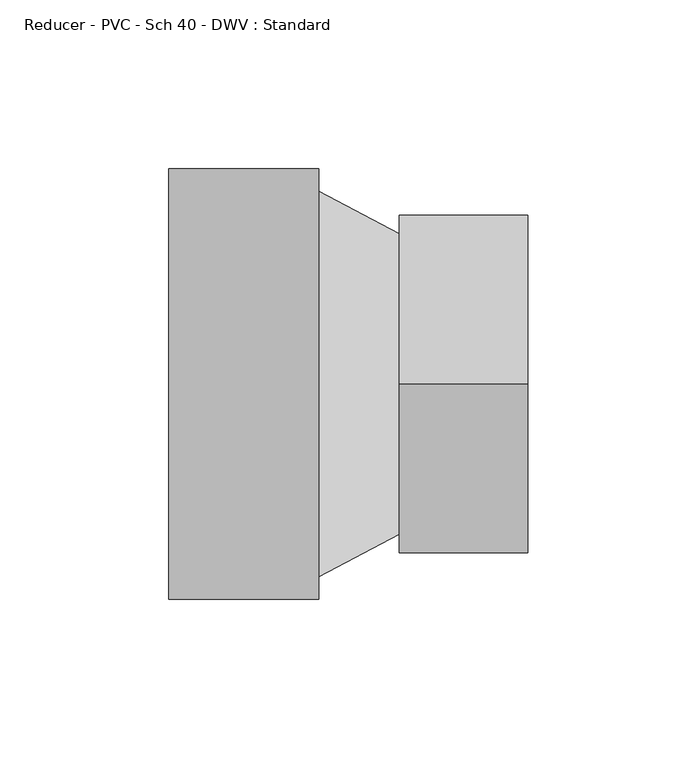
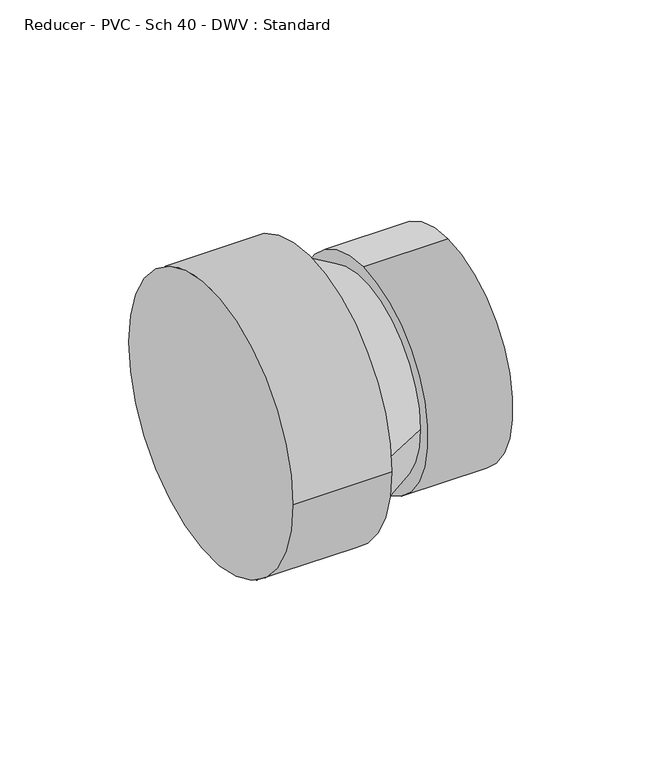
"""IFC4 building model written with IfcOpenShell, lengths in millimetres: pipe fitting geometry, Reducer - PVC - Sch 40 - DWV : Standard."""

from ifc_helpers import new_model, si_unit, frame, origin, place, context, project, spatial, circle_curve, source, transform, mapped, element, save
from ifc_brep_helpers import plane_surface, cylinder_surface, spline_surface, advanced_brep


def reducer_pvc_sch_40_dwv_standard_f2b73945(model_context):
    return source(origin(), model_context, "Body", "AdvancedBrep", [
        advanced_brep(
        [(0.0, -63.754, 0.0), (0.0, 63.754, 0.0), (44.45, -63.754, 0.0), (44.45, 63.754, 0.0), (44.45, 57.15, 0.0), (44.45, -57.15, 0.0), (68.2752, 44.4502167, -0.0078867), (68.2752, -44.4497833, -0.0078867), (68.2752, 0.0002167, 50.2587133), (68.2752, 0.0002167, -50.2744867), (106.3752, 0.0002167, 50.2587133), (106.3752, 0.0002167, -50.2744867)],
        [
            (0, 1, circle_curve(frame((0.0, 0.0, 0.0), z_axis=(-1.0, 0.0, 0.0), x_axis=(0.0, 1.0, 0.0)), 63.754)),
            (1, 0, circle_curve(frame((0.0, 0.0, 0.0), z_axis=(-1.0, 0.0, 0.0), x_axis=(0.0, 1.0, 0.0)), 63.754)),
            (2, 3, circle_curve(frame((44.45, 0.0, 0.0), z_axis=(1.0, 0.0, 0.0), x_axis=(0.0, 1.0, 0.0)), 63.754)),
            (3, 2, circle_curve(frame((44.45, 0.0, 0.0), z_axis=(1.0, 0.0, 0.0), x_axis=(0.0, 1.0, 0.0)), 63.754)),
            (4, 5, circle_curve(frame((44.45, 0.0, 0.0), z_axis=(-1.0, 0.0, 0.0), x_axis=(0.0, 1.0, 0.0)), 57.15)),
            (5, 4, circle_curve(frame((44.45, 0.0, 0.0), z_axis=(-1.0, 0.0, 0.0), x_axis=(0.0, 1.0, 0.0)), 57.15)),
            (0, 2),
            (3, 1),
            (4, 6),
            (6, 7, circle_curve(frame((68.2752, 0.0002167, -0.0078867), z_axis=(-1.0, 0.0, 0.0), x_axis=(0.0, 1.0, 0.0)), 44.45)),
            (7, 5),
            (7, 6, circle_curve(frame((68.2752, 0.0002167, -0.0078867), z_axis=(-1.0, 0.0, 0.0), x_axis=(0.0, 1.0, 0.0)), 44.45)),
            (8, 9, circle_curve(frame((68.2752, 0.0002167, -0.0078867), z_axis=(-1.0, 0.0, 0.0), x_axis=(0.0, 0.0, -1.0)), 50.2666)),
            (9, 8, circle_curve(frame((68.2752, 0.0002167, -0.0078867), z_axis=(-1.0, 0.0, 0.0), x_axis=(0.0, 0.0, -1.0)), 50.2666)),
            (10, 11, circle_curve(frame((106.3752, 0.0002167, -0.0078867), z_axis=(1.0, 0.0, 0.0), x_axis=(0.0, 0.0, -1.0)), 50.2666)),
            (11, 10, circle_curve(frame((106.3752, 0.0002167, -0.0078867), z_axis=(1.0, 0.0, 0.0), x_axis=(0.0, 0.0, -1.0)), 50.2666)),
            (8, 10),
            (11, 9),
        ],
        [
            plane_surface(frame((0.0, 0.0, 0.0), z_axis=(-1.0, 0.0, 0.0), x_axis=(0.0, 0.0, 1.0))),
            plane_surface(frame((44.45, 0.0, 0.0), z_axis=(1.0, 0.0, 0.0), x_axis=(0.0, 0.0, 1.0))),
            cylinder_surface(frame((0.0, 0.0, 0.0), z_axis=(-1.0, 0.0, 0.0), x_axis=(0.0, 1.0, 0.0)), 63.754),
            spline_surface(2, 1, [[(44.45, -57.15, 0.0), (68.2752, -44.4497833, -0.0078867)], [(44.45, -57.15, -57.15), (68.2752, -44.4497833, -44.4578867)], [(44.45, 0.0, -57.15), (68.2752, 0.0002167, -44.4578867)], [(44.45, 57.15, -57.15), (68.2752, 44.450216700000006, -44.4578867)], [(44.45, 57.15, 0.0), (68.2752, 44.4502167, -0.0078867)]], [3, 2, 3], [2, 2], [0.0, 1.0, 2.0], [0.0, 1.0], weights=[[1.0, 1.0], [0.7071067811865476, 0.7071067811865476], [1.0, 1.0], [0.7071067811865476, 0.7071067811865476], [1.0, 1.0]]),
            spline_surface(2, 1, [[(44.45, 57.15, 0.0), (68.2752, 44.4502167, -0.0078867)], [(44.45, 57.15, 57.15), (68.2752, 44.4502167, 44.442113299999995)], [(44.45, 0.0, 57.15), (68.2752, 0.0002167, 44.442113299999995)], [(44.45, -57.15, 57.15), (68.2752, -44.44978329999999, 44.442113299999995)], [(44.45, -57.15, 0.0), (68.2752, -44.4497833, -0.0078867)]], [3, 2, 3], [2, 2], [0.0, 1.0, 2.0], [0.0, 1.0], weights=[[1.0, 1.0], [0.7071067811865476, 0.7071067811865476], [1.0, 1.0], [0.7071067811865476, 0.7071067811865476], [1.0, 1.0]]),
            plane_surface(frame((68.2752, 0.0002167, -0.0078867), z_axis=(-1.0, 0.0, 0.0), x_axis=(0.0, 1.0, 0.0))),
            plane_surface(frame((106.3752, 0.0002167, -0.0078867), z_axis=(1.0, 0.0, 0.0), x_axis=(0.0, 1.0, 0.0))),
            cylinder_surface(frame((68.2752, 0.0002167, -0.0078867), z_axis=(-1.0, 0.0, 0.0), x_axis=(0.0, 0.0, -1.0)), 50.2666),
        ],
        [
            (0, [[1, 2]]),
            (1, [[3, 4], [5, 6]]),
            (2, [[-1, 7, -4, 8]]),
            (2, [[-2, -8, -3, -7]]),
            (3, [[9, 10, 11, -5]]),
            (4, [[-9, -6, -11, 12]]),
            (5, [[13, 14], [-10, -12]]),
            (6, [[15, 16]]),
            (7, [[-13, 17, -16, 18]]),
            (7, [[-14, -18, -15, -17]]),
        ],
    ),
    ])


if __name__ == "__main__":
    model = new_model("IFC4")
    model_context = context("Model", 3, world=origin())
    ifc_project = project(units=[si_unit("LENGTHUNIT", "METRE", prefix="MILLI")], contexts=[model_context])
    site = spatial("IfcSite", under=ifc_project)
    building = spatial("IfcBuilding", under=site)
    placement = place(None, origin())
    reducer_pvc_sch_40_dwv_standard_shape = reducer_pvc_sch_40_dwv_standard_f2b73945(model_context)
    element("IfcPipeFitting", 1, ObjectType="Reducer - PVC - Sch 40 - DWV : Standard", at=placement, inside=building, context=model_context, shape_type="MappedRepresentation", body=[
        mapped(reducer_pvc_sch_40_dwv_standard_shape, transform((0.0, 0.0, 0.0), x_axis=(1.0, 0.0, 0.0), y_axis=(0.0, 1.0, 0.0), z_axis=(0.0, 0.0, 1.0))),
    ])
    save(model, "model.ifc")
